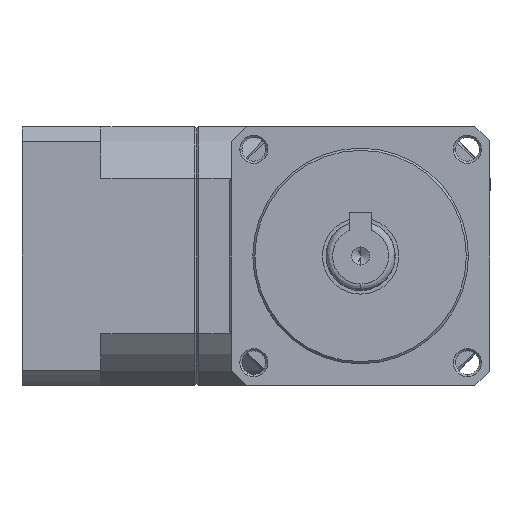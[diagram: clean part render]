
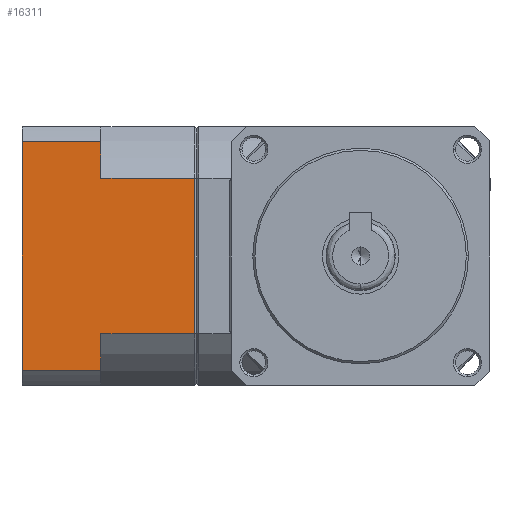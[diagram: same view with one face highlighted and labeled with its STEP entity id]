
A CAD part, left-side view. The second image highlights one B-rep face of the part: STEP entity #16311.
In plain terms, the highlighted planar face has unit normal (-1, 0, 0).
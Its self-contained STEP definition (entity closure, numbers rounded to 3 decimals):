
#1354 = ORIENTED_EDGE ( 'NONE', *, *, #18930, .T. ) ;
#1579 = EDGE_CURVE ( 'NONE', #3670, #18325, #19439, .T. ) ;
#2564 = LINE ( 'NONE', #19706, #18041 ) ;
#3171 = DIRECTION ( 'NONE',  ( 0., 0., 1. ) ) ;
#3224 = CARTESIAN_POINT ( 'NONE',  ( 53.86, -36.677, 38.831 ) ) ;
#3670 = VERTEX_POINT ( 'NONE', #3224 ) ;
#4192 = VECTOR ( 'NONE', #16245, 1000. ) ;
#4325 = CARTESIAN_POINT ( 'NONE',  ( 53.86, -58.877, 2.775 ) ) ;
#4767 = CARTESIAN_POINT ( 'NONE',  ( 53.86, -36.677, 50.803 ) ) ;
#4812 = CARTESIAN_POINT ( 'NONE',  ( 53.86, -58.877, 47.26 ) ) ;
#4961 = DIRECTION ( 'NONE',  ( -1., 0., 0. ) ) ;
#5359 = DIRECTION ( 'NONE',  ( 0., -1., 0. ) ) ;
#5708 = VECTOR ( 'NONE', #18070, 1000. ) ;
#5822 = CARTESIAN_POINT ( 'NONE',  ( 53.86, -58.377, 38.831 ) ) ;
#5862 = EDGE_CURVE ( 'NONE', #18325, #19311, #8554, .T. ) ;
#5957 = VERTEX_POINT ( 'NONE', #7486 ) ;
#6081 = EDGE_CURVE ( 'NONE', #18284, #12821, #2564, .T. ) ;
#6146 = ORIENTED_EDGE ( 'NONE', *, *, #1579, .F. ) ;
#6566 = ORIENTED_EDGE ( 'NONE', *, *, #6081, .T. ) ;
#6757 = CARTESIAN_POINT ( 'NONE',  ( 53.86, -36.677, 2.775 ) ) ;
#7146 = CARTESIAN_POINT ( 'NONE',  ( 53.86, -18.377, -5.655 ) ) ;
#7486 = CARTESIAN_POINT ( 'NONE',  ( 53.86, -36.677, 47.26 ) ) ;
#7589 = DIRECTION ( 'NONE',  ( 0., 0., 1. ) ) ;
#8297 = VERTEX_POINT ( 'NONE', #6757 ) ;
#8482 = VECTOR ( 'NONE', #17084, 1000. ) ;
#8554 = LINE ( 'NONE', #16717, #20288 ) ;
#9758 = CARTESIAN_POINT ( 'NONE',  ( 53.86, -58.877, 50.803 ) ) ;
#9892 = EDGE_CURVE ( 'NONE', #8297, #19311, #16475, .T. ) ;
#10316 = ORIENTED_EDGE ( 'NONE', *, *, #5862, .F. ) ;
#11178 = DIRECTION ( 'NONE',  ( 0., 0., 1. ) ) ;
#11662 = LINE ( 'NONE', #17725, #4192 ) ;
#12091 = EDGE_LOOP ( 'NONE', ( #17951, #12596, #6566, #1354, #20298, #10316, #6146, #16607 ) ) ;
#12596 = ORIENTED_EDGE ( 'NONE', *, *, #17640, .T. ) ;
#12615 = EDGE_CURVE ( 'NONE', #3670, #5957, #18880, .T. ) ;
#12821 = VERTEX_POINT ( 'NONE', #13053 ) ;
#13053 = CARTESIAN_POINT ( 'NONE',  ( 53.86, -36.677, -5.655 ) ) ;
#13164 = CARTESIAN_POINT ( 'NONE',  ( 53.86, -78.156, 38.831 ) ) ;
#13802 = CARTESIAN_POINT ( 'NONE',  ( 53.86, -36.677, 50.803 ) ) ;
#14086 = DIRECTION ( 'NONE',  ( 0., 1., 0. ) ) ;
#15247 = CARTESIAN_POINT ( 'NONE',  ( 53.86, -58.377, 2.775 ) ) ;
#16169 = VECTOR ( 'NONE', #14086, 1000. ) ;
#16203 = FACE_OUTER_BOUND ( 'NONE', #12091, .T. ) ;
#16245 = DIRECTION ( 'NONE',  ( 0., 0., -1. ) ) ;
#16311 = ADVANCED_FACE ( 'NONE', ( #16203 ), #17299, .T. ) ;
#16475 = LINE ( 'NONE', #4325, #8482 ) ;
#16589 = LINE ( 'NONE', #13802, #20089 ) ;
#16607 = ORIENTED_EDGE ( 'NONE', *, *, #12615, .T. ) ;
#16654 = DIRECTION ( 'NONE',  ( 0., 0., -1. ) ) ;
#16672 = LINE ( 'NONE', #4812, #16169 ) ;
#16717 = CARTESIAN_POINT ( 'NONE',  ( 53.86, -58.377, 50.803 ) ) ;
#17084 = DIRECTION ( 'NONE',  ( 0., -1., 0. ) ) ;
#17253 = EDGE_CURVE ( 'NONE', #5957, #17328, #16672, .T. ) ;
#17299 = PLANE ( 'NONE',  #18897 ) ;
#17328 = VERTEX_POINT ( 'NONE', #20428 ) ;
#17639 = VECTOR ( 'NONE', #3171, 1000. ) ;
#17640 = EDGE_CURVE ( 'NONE', #17328, #18284, #11662, .T. ) ;
#17725 = CARTESIAN_POINT ( 'NONE',  ( 53.86, -18.377, 60.803 ) ) ;
#17951 = ORIENTED_EDGE ( 'NONE', *, *, #17253, .T. ) ;
#18041 = VECTOR ( 'NONE', #5359, 1000. ) ;
#18070 = DIRECTION ( 'NONE',  ( 0., -1., 0. ) ) ;
#18284 = VERTEX_POINT ( 'NONE', #7146 ) ;
#18325 = VERTEX_POINT ( 'NONE', #5822 ) ;
#18880 = LINE ( 'NONE', #4767, #17639 ) ;
#18897 = AXIS2_PLACEMENT_3D ( 'NONE', #9758, #4961, #11178 ) ;
#18930 = EDGE_CURVE ( 'NONE', #12821, #8297, #16589, .T. ) ;
#19311 = VERTEX_POINT ( 'NONE', #15247 ) ;
#19439 = LINE ( 'NONE', #13164, #5708 ) ;
#19706 = CARTESIAN_POINT ( 'NONE',  ( 53.86, -58.877, -5.655 ) ) ;
#20089 = VECTOR ( 'NONE', #7589, 1000. ) ;
#20288 = VECTOR ( 'NONE', #16654, 1000. ) ;
#20298 = ORIENTED_EDGE ( 'NONE', *, *, #9892, .T. ) ;
#20428 = CARTESIAN_POINT ( 'NONE',  ( 53.86, -18.377, 47.26 ) ) ;
